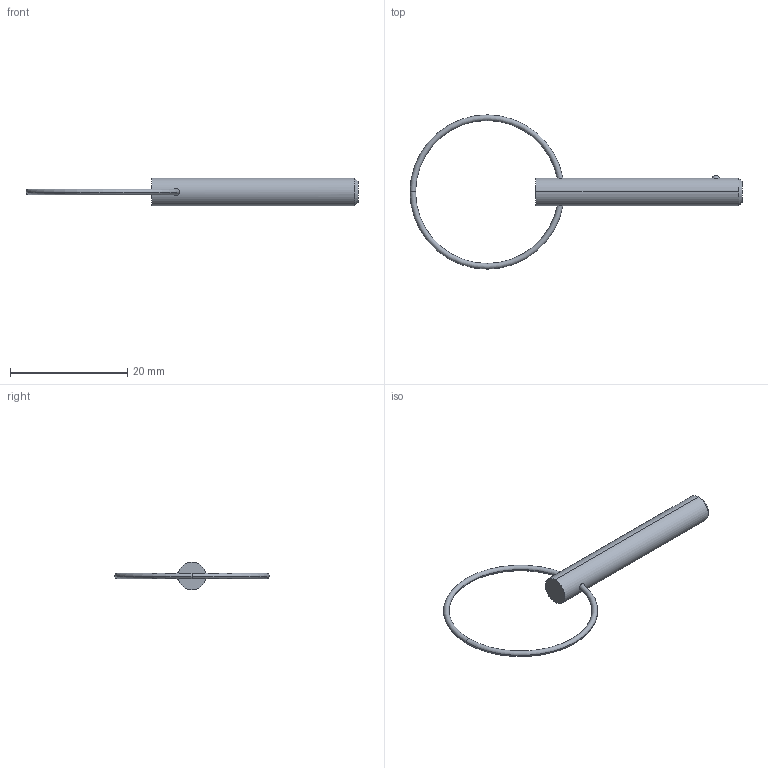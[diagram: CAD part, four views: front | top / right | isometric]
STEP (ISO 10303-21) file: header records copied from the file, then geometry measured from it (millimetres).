
FILE_DESCRIPTION (( 'STEP AP203' ), '1' );
FILE_NAME ('33012.W1810.step', '2024-11-01T14:05:47', ( '' ), ( '' ), 'SwSTEP 2.0', 'SolidWorks 2019', '' );
FILE_SCHEMA (( 'CONFIG_CONTROL_DESIGN' ));
Length unit declared in the file: millimetre
Products named in the file (3): 33012.W1810; Part2_33012.W1810; Part1_33012.W1810
Assembly tree (2 placements, depth 2):
  33012.W1810
    Part1_33012.W1810
    Part2_33012.W1810
Bounding box: 56.74 x 26.35 x 4.76 mm (x, y, z)
Volume: 676.3 mm3; surface area: 811.4 mm2
Topology: 2 solids, 2 shells, 16 faces, 31 edges, 18 vertices
Faces by surface type: torus 8, sphere 2, cone 2, cylinder 2, plane 2
Entity records: 779 total; most frequent: CARTESIAN_POINT 136, DIRECTION 88, ORIENTED_EDGE 62, AXIS2_PLACEMENT_3D 42, EDGE_CURVE 31, PERSON_AND_ORGANIZATION 26, CIRCLE 21, CALENDAR_DATE 19
